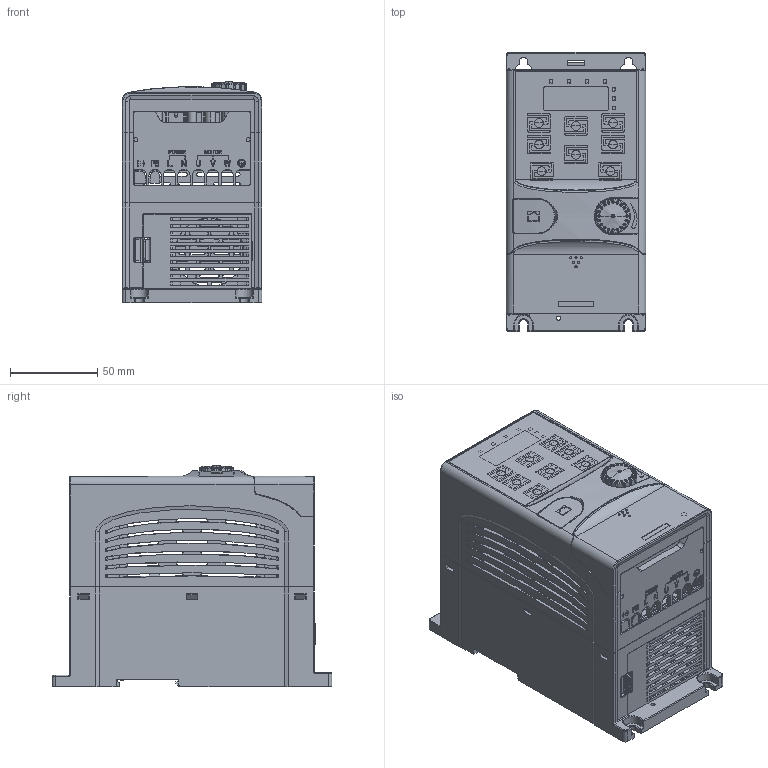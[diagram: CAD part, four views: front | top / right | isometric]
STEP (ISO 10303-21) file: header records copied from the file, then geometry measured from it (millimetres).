
FILE_DESCRIPTION((''),'2;1');
FILE_NAME('GD20_R75_ASM_ASM_ASM','2016-12-13T',('Administrator'),(''),'PRO/ENGINEER BY PARAMETRIC TECHNOLOGY CORPORATION, 2010280','PRO/ENGINEER BY PARAMETRIC TECHNOLOGY CORPORATION, 2010280','');
FILE_SCHEMA(('CONFIG_CONTROL_DESIGN'));
Products named in the file (16): PRT0001; PRT0002; PRT0003; PRT0004; PRT0005; PRT0006; PRT0007; PRT0008; PRT0009; PRT0010; PRT0011; MANIFOLD_SOLID_BREP_194577; MANIFOLD_SOLID_BREP_194913; _GD20_R75_ASM_ASM; ASM0001_ASM; GD20_R75_ASM_ASM_ASM
Assembly tree (15 placements, depth 4):
  GD20_R75_ASM_ASM_ASM
    ASM0001_ASM
      PRT0001
      PRT0002
      PRT0003
      PRT0004
      PRT0005
      PRT0006
      PRT0007
      PRT0008
      PRT0009
      PRT0010
      PRT0011
      _GD20_R75_ASM_ASM
        MANIFOLD_SOLID_BREP_194577
        MANIFOLD_SOLID_BREP_194913
Bounding box: 80 x 160 x 126.54 mm (x, y, z)
Volume: 218006 mm3; surface area: 221209.1 mm2
Topology: 13 solids, 13 shells, 5071 faces, 15144 edges, 10052 vertices
Faces by surface type: plane 2783, cylinder 1182, extrusion 740, bspline 164, sphere 76, cone 55, torus 51, revolution 20
Entity records: 197794 total; most frequent: CARTESIAN_POINT 63837, ORIENTED_EDGE 30096, DIRECTION 24465, EDGE_CURVE 15048, VECTOR 10137, VERTEX_POINT 10052, LINE 9397, AXIS2_PLACEMENT_3D 7154
